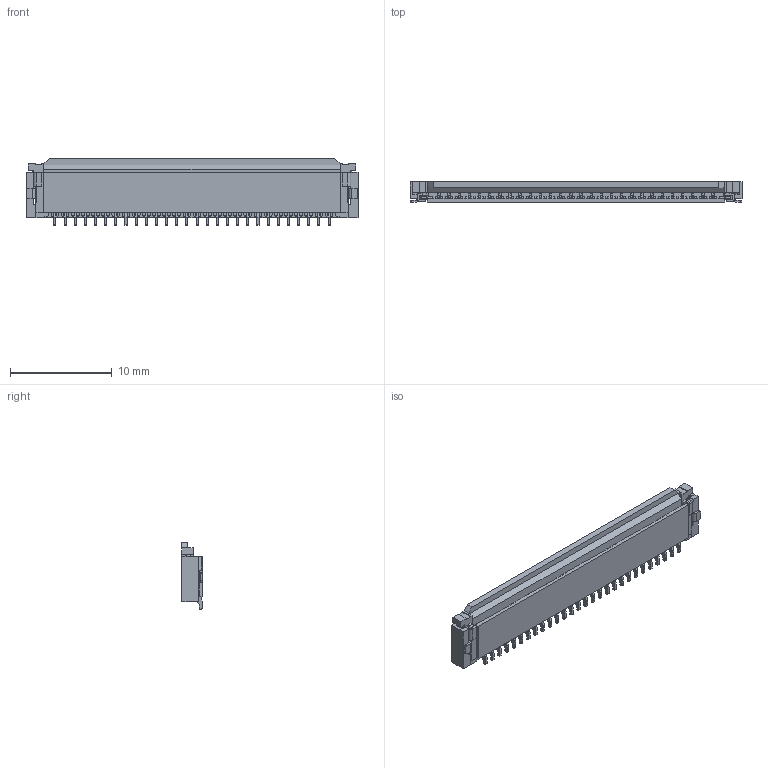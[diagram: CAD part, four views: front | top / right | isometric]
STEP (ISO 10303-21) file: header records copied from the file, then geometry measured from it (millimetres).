
FILE_DESCRIPTION((''),'2;1');
FILE_NAME('S-51504-017XX-XXX','2012-02-24T',('12104020'),(''),'PRO/ENGINEER BY PARAMETRIC TECHNOLOGY CORPORATION, 2009360','PRO/ENGINEER BY PARAMETRIC TECHNOLOGY CORPORATION, 2009360','');
FILE_SCHEMA(('CONFIG_CONTROL_DESIGN'));
Products named in the file (1): S-51504-017XX-XXX
Bounding box: 32.7 x 2 x 6.55 mm (x, y, z)
Volume: 203.4 mm3; surface area: 1309.4 mm2
Topology: 1 solids, 1 shells, 2736 faces, 9511 edges, 6343 vertices
Faces by surface type: plane 1958, cylinder 778
Entity records: 103186 total; most frequent: ORIENTED_EDGE 19022, CARTESIAN_POINT 18656, DIRECTION 16858, EDGE_CURVE 9511, VECTOR 7604, LINE 7604, VERTEX_POINT 6343, AXIS2_PLACEMENT_3D 4627
